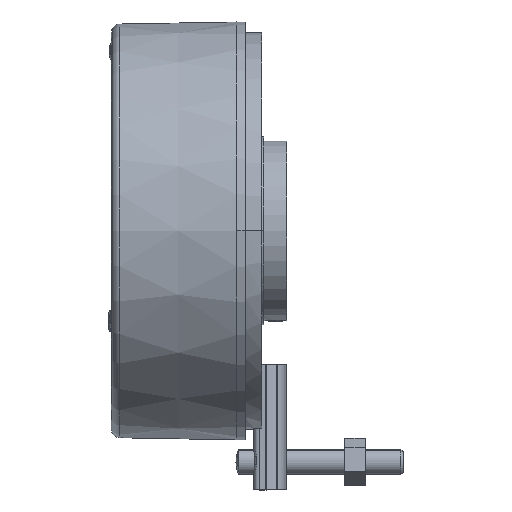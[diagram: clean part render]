
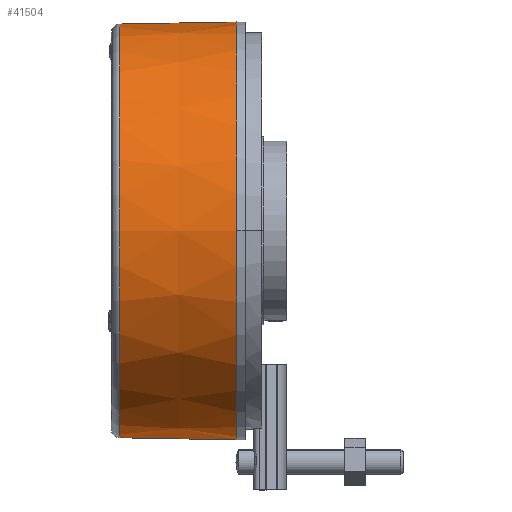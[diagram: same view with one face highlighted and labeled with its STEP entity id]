
A CAD part, top view. The second image highlights one B-rep face of the part: STEP entity #41504.
In plain terms, the highlighted conical face has half-angle 1 degrees and reference radius 50 mm.
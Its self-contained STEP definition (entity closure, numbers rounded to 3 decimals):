
#41385 = VERTEX_POINT ( 'NONE', #54254 ) ;
#41387 = EDGE_CURVE ( 'NONE', #41399, #41385, #54252, .T. ) ;
#41399 = VERTEX_POINT ( 'NONE', #54322 ) ;
#41477 = EDGE_LOOP ( 'NONE', ( #41478, #41479, #41480, #41483 ) ) ;
#41478 = ORIENTED_EDGE ( 'NONE', *, *, #41497, .F. ) ;
#41479 = ORIENTED_EDGE ( 'NONE', *, *, #41387, .T. ) ;
#41480 = ORIENTED_EDGE ( 'NONE', *, *, #41481, .T. ) ;
#41481 = EDGE_CURVE ( 'NONE', #41385, #41482, #54509, .T. ) ;
#41482 = VERTEX_POINT ( 'NONE', #54505 ) ;
#41483 = ORIENTED_EDGE ( 'NONE', *, *, #41484, .T. ) ;
#41484 = EDGE_CURVE ( 'NONE', #41482, #41498, #54553, .T. ) ;
#41497 = EDGE_CURVE ( 'NONE', #41399, #41498, #54613, .T. ) ;
#41498 = VERTEX_POINT ( 'NONE', #54609 ) ;
#41504 = ADVANCED_FACE ( 'NONE', ( #54602 ), #54638, .T. ) ;
#54248 = DIRECTION ( 'NONE',  ( 0., 1., 0. ) ) ;
#54249 = DIRECTION ( 'NONE',  ( 1., 0., 0. ) ) ;
#54250 = CARTESIAN_POINT ( 'NONE',  ( 15.192, -3.167, 0. ) ) ;
#54251 = AXIS2_PLACEMENT_3D ( 'NONE', #54250, #54249, #54248 ) ;
#54252 = CIRCLE ( 'NONE', #54251, 49.511 ) ;
#54254 = CARTESIAN_POINT ( 'NONE',  ( 15.192, -52.677, 0. ) ) ;
#54322 = CARTESIAN_POINT ( 'NONE',  ( 15.192, 46.344, 0. ) ) ;
#54505 = CARTESIAN_POINT ( 'NONE',  ( 43.227, -53.167, 0. ) ) ;
#54506 = DIRECTION ( 'NONE',  ( 1., -0.017, 0. ) ) ;
#54507 = VECTOR ( 'NONE', #54506, 1000. ) ;
#54508 = CARTESIAN_POINT ( 'NONE',  ( 43.227, -53.167, 0. ) ) ;
#54509 = LINE ( 'NONE', #54508, #54507 ) ;
#54549 = DIRECTION ( 'NONE',  ( 0., 1., 0. ) ) ;
#54550 = DIRECTION ( 'NONE',  ( -1., 0., 0. ) ) ;
#54551 = CARTESIAN_POINT ( 'NONE',  ( 43.227, -3.167, 0. ) ) ;
#54552 = AXIS2_PLACEMENT_3D ( 'NONE', #54551, #54550, #54549 ) ;
#54553 = CIRCLE ( 'NONE', #54552, 50. ) ;
#54602 = FACE_OUTER_BOUND ( 'NONE', #41477, .T. ) ;
#54609 = CARTESIAN_POINT ( 'NONE',  ( 43.227, 46.833, 0. ) ) ;
#54610 = DIRECTION ( 'NONE',  ( 1., 0.017, 0. ) ) ;
#54611 = VECTOR ( 'NONE', #54610, 1000. ) ;
#54612 = CARTESIAN_POINT ( 'NONE',  ( 43.227, 46.833, 0. ) ) ;
#54613 = LINE ( 'NONE', #54612, #54611 ) ;
#54634 = DIRECTION ( 'NONE',  ( 0., -1., 0. ) ) ;
#54635 = DIRECTION ( 'NONE',  ( 1., 0., 0. ) ) ;
#54636 = CARTESIAN_POINT ( 'NONE',  ( 43.227, -3.167, 0. ) ) ;
#54637 = AXIS2_PLACEMENT_3D ( 'NONE', #54636, #54635, #54634 ) ;
#54638 = CONICAL_SURFACE ( 'NONE', #54637, 50., 0.017 ) ;
